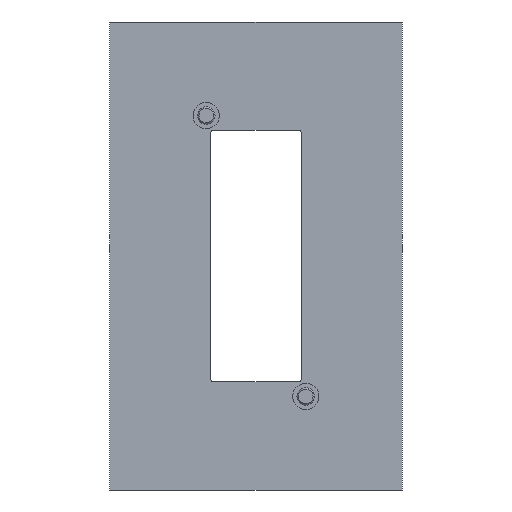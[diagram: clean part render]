
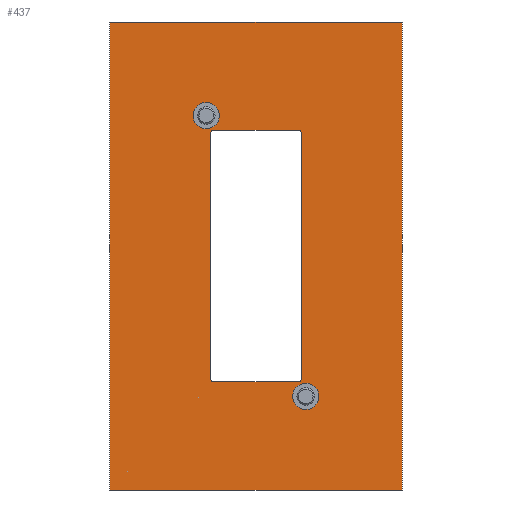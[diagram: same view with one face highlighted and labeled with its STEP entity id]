
A CAD part, left-side view. The second image highlights one B-rep face of the part: STEP entity #437.
In plain terms, the highlighted planar face has unit normal (-1, 0, 0).
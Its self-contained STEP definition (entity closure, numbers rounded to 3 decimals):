
#17=FACE_BOUND('',#92,.T.);
#18=FACE_BOUND('',#93,.T.);
#19=FACE_BOUND('',#94,.T.);
#33=PLANE('',#507);
#65=FACE_OUTER_BOUND('',#91,.T.);
#91=EDGE_LOOP('',(#385,#386,#387,#388));
#92=EDGE_LOOP('',(#389,#390));
#93=EDGE_LOOP('',(#391,#392));
#94=EDGE_LOOP('',(#393,#394,#395,#396,#397,#398,#399,#400));
#107=LINE('',#712,#141);
#111=LINE('',#724,#145);
#115=LINE('',#736,#149);
#117=LINE('',#744,#151);
#121=LINE('',#753,#155);
#125=LINE('',#760,#159);
#128=LINE('',#766,#162);
#130=LINE('',#769,#164);
#141=VECTOR('',#585,10.);
#145=VECTOR('',#597,10.);
#149=VECTOR('',#609,10.);
#151=VECTOR('',#619,10.);
#155=VECTOR('',#625,10.);
#159=VECTOR('',#631,10.);
#162=VECTOR('',#636,10.);
#164=VECTOR('',#640,10.);
#172=CIRCLE('',#470,2.25);
#173=CIRCLE('',#471,2.25);
#181=CIRCLE('',#484,2.25);
#182=CIRCLE('',#485,2.25);
#184=CIRCLE('',#489,0.5);
#186=CIRCLE('',#493,0.5);
#188=CIRCLE('',#497,0.5);
#190=CIRCLE('',#501,0.5);
#198=VERTEX_POINT('',#666);
#199=VERTEX_POINT('',#668);
#207=VERTEX_POINT('',#692);
#208=VERTEX_POINT('',#694);
#211=VERTEX_POINT('',#702);
#212=VERTEX_POINT('',#704);
#214=VERTEX_POINT('',#710);
#216=VERTEX_POINT('',#716);
#218=VERTEX_POINT('',#722);
#220=VERTEX_POINT('',#728);
#222=VERTEX_POINT('',#734);
#224=VERTEX_POINT('',#740);
#227=VERTEX_POINT('',#750);
#228=VERTEX_POINT('',#752);
#230=VERTEX_POINT('',#758);
#232=VERTEX_POINT('',#764);
#243=EDGE_CURVE('',#199,#198,#172,.T.);
#244=EDGE_CURVE('',#198,#199,#173,.T.);
#255=EDGE_CURVE('',#208,#207,#181,.T.);
#256=EDGE_CURVE('',#207,#208,#182,.T.);
#259=EDGE_CURVE('',#211,#212,#184,.T.);
#263=EDGE_CURVE('',#211,#214,#107,.T.);
#266=EDGE_CURVE('',#216,#214,#186,.T.);
#269=EDGE_CURVE('',#216,#218,#111,.T.);
#272=EDGE_CURVE('',#220,#218,#188,.T.);
#275=EDGE_CURVE('',#220,#222,#115,.T.);
#278=EDGE_CURVE('',#224,#222,#190,.T.);
#279=EDGE_CURVE('',#224,#212,#117,.T.);
#283=EDGE_CURVE('',#227,#228,#121,.T.);
#287=EDGE_CURVE('',#230,#227,#125,.T.);
#290=EDGE_CURVE('',#232,#230,#128,.T.);
#292=EDGE_CURVE('',#228,#232,#130,.T.);
#385=ORIENTED_EDGE('',*,*,#292,.F.);
#386=ORIENTED_EDGE('',*,*,#283,.F.);
#387=ORIENTED_EDGE('',*,*,#287,.F.);
#388=ORIENTED_EDGE('',*,*,#290,.F.);
#389=ORIENTED_EDGE('',*,*,#243,.T.);
#390=ORIENTED_EDGE('',*,*,#244,.T.);
#391=ORIENTED_EDGE('',*,*,#255,.T.);
#392=ORIENTED_EDGE('',*,*,#256,.T.);
#393=ORIENTED_EDGE('',*,*,#275,.T.);
#394=ORIENTED_EDGE('',*,*,#278,.F.);
#395=ORIENTED_EDGE('',*,*,#279,.T.);
#396=ORIENTED_EDGE('',*,*,#259,.F.);
#397=ORIENTED_EDGE('',*,*,#263,.T.);
#398=ORIENTED_EDGE('',*,*,#266,.F.);
#399=ORIENTED_EDGE('',*,*,#269,.T.);
#400=ORIENTED_EDGE('',*,*,#272,.F.);
#437=ADVANCED_FACE('',(#65,#17,#18,#19),#33,.F.);
#470=AXIS2_PLACEMENT_3D('',#669,#536,#537);
#471=AXIS2_PLACEMENT_3D('',#670,#538,#539);
#484=AXIS2_PLACEMENT_3D('',#695,#567,#568);
#485=AXIS2_PLACEMENT_3D('',#696,#569,#570);
#489=AXIS2_PLACEMENT_3D('',#705,#578,#579);
#493=AXIS2_PLACEMENT_3D('',#718,#591,#592);
#497=AXIS2_PLACEMENT_3D('',#730,#603,#604);
#501=AXIS2_PLACEMENT_3D('',#742,#615,#616);
#507=AXIS2_PLACEMENT_3D('',#770,#641,#642);
#536=DIRECTION('center_axis',(1.,0.,0.));
#537=DIRECTION('ref_axis',(0.,0.,1.));
#538=DIRECTION('center_axis',(1.,0.,0.));
#539=DIRECTION('ref_axis',(0.,0.,1.));
#567=DIRECTION('center_axis',(1.,0.,0.));
#568=DIRECTION('ref_axis',(0.,0.,1.));
#569=DIRECTION('center_axis',(1.,0.,0.));
#570=DIRECTION('ref_axis',(0.,0.,1.));
#578=DIRECTION('center_axis',(-1.,0.,0.));
#579=DIRECTION('ref_axis',(0.,0.707,0.707));
#585=DIRECTION('',(0.,-1.,0.));
#591=DIRECTION('center_axis',(-1.,0.,0.));
#592=DIRECTION('ref_axis',(0.,-0.707,0.707));
#597=DIRECTION('',(0.,0.,-1.));
#603=DIRECTION('center_axis',(-1.,0.,0.));
#604=DIRECTION('ref_axis',(0.,-0.707,-0.707));
#609=DIRECTION('',(0.,1.,0.));
#615=DIRECTION('center_axis',(-1.,0.,0.));
#616=DIRECTION('ref_axis',(0.,0.707,-0.707));
#619=DIRECTION('',(0.,0.,1.));
#625=DIRECTION('',(0.,0.,-1.));
#631=DIRECTION('',(0.,-1.,0.));
#636=DIRECTION('',(0.,0.,1.));
#640=DIRECTION('',(0.,1.,0.));
#641=DIRECTION('center_axis',(1.,0.,0.));
#642=DIRECTION('ref_axis',(0.,0.,-1.));
#666=CARTESIAN_POINT('',(0.,-8.5,-26.25));
#668=CARTESIAN_POINT('',(0.,-8.5,-21.75));
#669=CARTESIAN_POINT('Origin',(0.,-8.5,-24.));
#670=CARTESIAN_POINT('Origin',(0.,-8.5,-24.));
#692=CARTESIAN_POINT('',(0.,8.5,21.75));
#694=CARTESIAN_POINT('',(0.,8.5,26.25));
#695=CARTESIAN_POINT('Origin',(0.,8.5,24.));
#696=CARTESIAN_POINT('Origin',(0.,8.5,24.));
#702=CARTESIAN_POINT('',(0.,7.25,21.5));
#704=CARTESIAN_POINT('',(0.,7.75,21.));
#705=CARTESIAN_POINT('Origin',(0.,7.25,21.));
#710=CARTESIAN_POINT('',(0.,-7.25,21.5));
#712=CARTESIAN_POINT('',(0.,-3.875,21.5));
#716=CARTESIAN_POINT('',(0.,-7.75,21.));
#718=CARTESIAN_POINT('Origin',(0.,-7.25,21.));
#722=CARTESIAN_POINT('',(0.,-7.75,-21.));
#724=CARTESIAN_POINT('',(0.,-7.75,-10.75));
#728=CARTESIAN_POINT('',(0.,-7.25,-21.5));
#730=CARTESIAN_POINT('Origin',(0.,-7.25,-21.));
#734=CARTESIAN_POINT('',(0.,7.25,-21.5));
#736=CARTESIAN_POINT('',(0.,3.875,-21.5));
#740=CARTESIAN_POINT('',(0.,7.75,-21.));
#742=CARTESIAN_POINT('Origin',(0.,7.25,-21.));
#744=CARTESIAN_POINT('',(0.,7.75,10.75));
#750=CARTESIAN_POINT('',(0.,-25.,40.));
#752=CARTESIAN_POINT('',(0.,-25.,-40.));
#753=CARTESIAN_POINT('',(0.,-25.,40.));
#758=CARTESIAN_POINT('',(0.,25.,40.));
#760=CARTESIAN_POINT('',(0.,25.,40.));
#764=CARTESIAN_POINT('',(0.,25.,-40.));
#766=CARTESIAN_POINT('',(0.,25.,-40.));
#769=CARTESIAN_POINT('',(0.,-25.,-40.));
#770=CARTESIAN_POINT('Origin',(0.,0.,0.));
